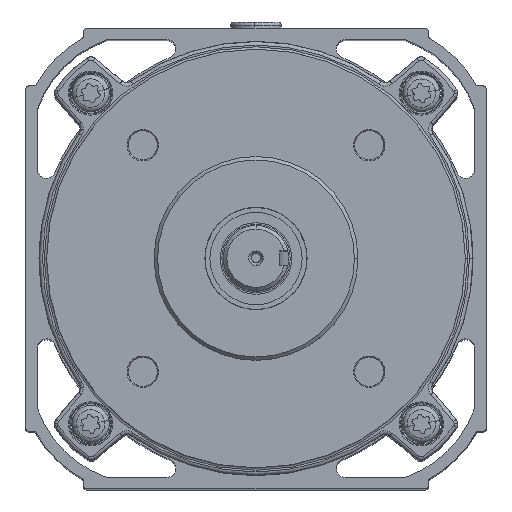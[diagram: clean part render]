
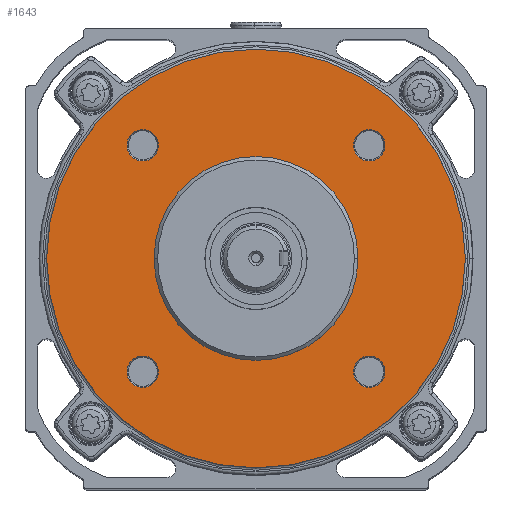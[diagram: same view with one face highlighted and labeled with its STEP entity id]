
A CAD part, top view. The second image highlights one B-rep face of the part: STEP entity #1643.
In plain terms, the highlighted planar face has unit normal (0, 0, 1).
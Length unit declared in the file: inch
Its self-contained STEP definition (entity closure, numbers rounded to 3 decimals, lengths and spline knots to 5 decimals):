
#1515 = ORIENTED_EDGE ( 'NONE', *, *, #12541, .F. ) ;
#1517 = EDGE_LOOP ( 'NONE', ( #1653, #1656 ) ) ;
#1524 = ORIENTED_EDGE ( 'NONE', *, *, #1634, .F. ) ;
#1525 = EDGE_LOOP ( 'NONE', ( #1524, #1515 ) ) ;
#1557 = ORIENTED_EDGE ( 'NONE', *, *, #12545, .F. ) ;
#1567 = EDGE_CURVE ( 'NONE', #12634, #12637, #19087, .T. ) ;
#1586 = EDGE_CURVE ( 'NONE', #12592, #12589, #19166, .T. ) ;
#1634 = EDGE_CURVE ( 'NONE', #12542, #12539, #19262, .T. ) ;
#1639 = EDGE_LOOP ( 'NONE', ( #1640, #1641 ) ) ;
#1640 = ORIENTED_EDGE ( 'NONE', *, *, #1642, .F. ) ;
#1641 = ORIENTED_EDGE ( 'NONE', *, *, #12494, .F. ) ;
#1642 = EDGE_CURVE ( 'NONE', #12495, #12492, #19257, .T. ) ;
#1643 = ADVANCED_FACE ( 'NONE', ( #19252, #19251, #19250, #19249, #19248, #19247 ), #19246, .F. ) ;
#1644 = EDGE_LOOP ( 'NONE', ( #1645, #1557 ) ) ;
#1645 = ORIENTED_EDGE ( 'NONE', *, *, #1646, .F. ) ;
#1646 = EDGE_CURVE ( 'NONE', #12546, #12543, #19239, .T. ) ;
#1652 = ORIENTED_EDGE ( 'NONE', *, *, #12636, .T. ) ;
#1653 = ORIENTED_EDGE ( 'NONE', *, *, #1586, .F. ) ;
#1654 = EDGE_LOOP ( 'NONE', ( #1657, #1660 ) ) ;
#1655 = ORIENTED_EDGE ( 'NONE', *, *, #1567, .T. ) ;
#1656 = ORIENTED_EDGE ( 'NONE', *, *, #12591, .F. ) ;
#1657 = ORIENTED_EDGE ( 'NONE', *, *, #12507, .F. ) ;
#1658 = EDGE_CURVE ( 'NONE', #12509, #12508, #19299, .T. ) ;
#1660 = ORIENTED_EDGE ( 'NONE', *, *, #1658, .F. ) ;
#1661 = EDGE_LOOP ( 'NONE', ( #1652, #1655 ) ) ;
#5833 = DIRECTION ( 'NONE',  ( 0., 0., 1. ) ) ;
#5834 = CARTESIAN_POINT ( 'NONE',  ( 0.97227, 0.97227, 5.912 ) ) ;
#5835 = AXIS2_PLACEMENT_3D ( 'NONE', #5834, #5833, #5900 ) ;
#5836 = CIRCLE ( 'NONE', #5835, 0.135 ) ;
#5837 = CARTESIAN_POINT ( 'NONE',  ( 0.83727, 0.97227, 5.912 ) ) ;
#5899 = CARTESIAN_POINT ( 'NONE',  ( 1.10727, 0.97227, 5.912 ) ) ;
#5900 = DIRECTION ( 'NONE',  ( 1., 0., 0. ) ) ;
#5926 = CARTESIAN_POINT ( 'NONE',  ( 1.79741, 0., 5.912 ) ) ;
#5927 = CARTESIAN_POINT ( 'NONE',  ( -1.79741, 0., 5.912 ) ) ;
#5928 = DIRECTION ( 'NONE',  ( -1., 0., 0. ) ) ;
#5929 = DIRECTION ( 'NONE',  ( 0., 0., -1. ) ) ;
#5930 = CARTESIAN_POINT ( 'NONE',  ( 0., 0., 5.912 ) ) ;
#5931 = AXIS2_PLACEMENT_3D ( 'NONE', #5930, #5929, #5928 ) ;
#5932 = CIRCLE ( 'NONE', #5931, 1.79741 ) ;
#5976 = CARTESIAN_POINT ( 'NONE',  ( 1.10727, -0.97227, 5.912 ) ) ;
#5977 = DIRECTION ( 'NONE',  ( 1., 0., 0. ) ) ;
#5978 = DIRECTION ( 'NONE',  ( 0., 0., 1. ) ) ;
#5979 = CARTESIAN_POINT ( 'NONE',  ( 0.97227, -0.97227, 5.912 ) ) ;
#5980 = AXIS2_PLACEMENT_3D ( 'NONE', #5979, #5978, #5977 ) ;
#5981 = CIRCLE ( 'NONE', #5980, 0.135 ) ;
#5983 = CARTESIAN_POINT ( 'NONE',  ( 0.83727, -0.97227, 5.912 ) ) ;
#5984 = CARTESIAN_POINT ( 'NONE',  ( -0.83727, -0.97227, 5.912 ) ) ;
#5985 = DIRECTION ( 'NONE',  ( 1., 0., 0. ) ) ;
#5986 = DIRECTION ( 'NONE',  ( 0., 0., 1. ) ) ;
#5987 = CARTESIAN_POINT ( 'NONE',  ( -0.97227, -0.97227, 5.912 ) ) ;
#5988 = AXIS2_PLACEMENT_3D ( 'NONE', #5987, #5986, #5985 ) ;
#5989 = CIRCLE ( 'NONE', #5988, 0.135 ) ;
#5990 = CARTESIAN_POINT ( 'NONE',  ( -1.10727, -0.97227, 5.912 ) ) ;
#6078 = CARTESIAN_POINT ( 'NONE',  ( -0.83727, 0.97227, 5.912 ) ) ;
#6079 = DIRECTION ( 'NONE',  ( 1., 0., 0. ) ) ;
#6080 = DIRECTION ( 'NONE',  ( 0., 0., 1. ) ) ;
#6081 = CARTESIAN_POINT ( 'NONE',  ( -0.97227, 0.97227, 5.912 ) ) ;
#6082 = AXIS2_PLACEMENT_3D ( 'NONE', #6081, #6080, #6079 ) ;
#6083 = CIRCLE ( 'NONE', #6082, 0.135 ) ;
#6084 = CARTESIAN_POINT ( 'NONE',  ( -1.10727, 0.97227, 5.912 ) ) ;
#6180 = CARTESIAN_POINT ( 'NONE',  ( -0.875, 0., 5.912 ) ) ;
#6181 = DIRECTION ( 'NONE',  ( -1., 0., 0. ) ) ;
#6182 = DIRECTION ( 'NONE',  ( 0., 0., -1. ) ) ;
#6183 = CARTESIAN_POINT ( 'NONE',  ( 0., 0., 5.912 ) ) ;
#6184 = AXIS2_PLACEMENT_3D ( 'NONE', #6183, #6182, #6181 ) ;
#6185 = CIRCLE ( 'NONE', #6184, 0.875 ) ;
#6186 = CARTESIAN_POINT ( 'NONE',  ( 0.875, 0., 5.912 ) ) ;
#12492 = VERTEX_POINT ( 'NONE', #5837 ) ;
#12494 = EDGE_CURVE ( 'NONE', #12492, #12495, #5836, .T. ) ;
#12495 = VERTEX_POINT ( 'NONE', #5899 ) ;
#12507 = EDGE_CURVE ( 'NONE', #12508, #12509, #5932, .T. ) ;
#12508 = VERTEX_POINT ( 'NONE', #5927 ) ;
#12509 = VERTEX_POINT ( 'NONE', #5926 ) ;
#12539 = VERTEX_POINT ( 'NONE', #5990 ) ;
#12541 = EDGE_CURVE ( 'NONE', #12539, #12542, #5989, .T. ) ;
#12542 = VERTEX_POINT ( 'NONE', #5984 ) ;
#12543 = VERTEX_POINT ( 'NONE', #5983 ) ;
#12545 = EDGE_CURVE ( 'NONE', #12543, #12546, #5981, .T. ) ;
#12546 = VERTEX_POINT ( 'NONE', #5976 ) ;
#12589 = VERTEX_POINT ( 'NONE', #6084 ) ;
#12591 = EDGE_CURVE ( 'NONE', #12589, #12592, #6083, .T. ) ;
#12592 = VERTEX_POINT ( 'NONE', #6078 ) ;
#12634 = VERTEX_POINT ( 'NONE', #6186 ) ;
#12636 = EDGE_CURVE ( 'NONE', #12637, #12634, #6185, .T. ) ;
#12637 = VERTEX_POINT ( 'NONE', #6180 ) ;
#19083 = DIRECTION ( 'NONE',  ( -1., 0., 0. ) ) ;
#19084 = DIRECTION ( 'NONE',  ( 0., 0., -1. ) ) ;
#19085 = CARTESIAN_POINT ( 'NONE',  ( 0., 0., 5.912 ) ) ;
#19086 = AXIS2_PLACEMENT_3D ( 'NONE', #19085, #19084, #19083 ) ;
#19087 = CIRCLE ( 'NONE', #19086, 0.875 ) ;
#19162 = DIRECTION ( 'NONE',  ( 1., 0., 0. ) ) ;
#19163 = DIRECTION ( 'NONE',  ( 0., 0., 1. ) ) ;
#19164 = CARTESIAN_POINT ( 'NONE',  ( -0.97227, 0.97227, 5.912 ) ) ;
#19165 = AXIS2_PLACEMENT_3D ( 'NONE', #19164, #19163, #19162 ) ;
#19166 = CIRCLE ( 'NONE', #19165, 0.135 ) ;
#19236 = DIRECTION ( 'NONE',  ( 1., 0., 0. ) ) ;
#19237 = DIRECTION ( 'NONE',  ( 0., 0., 1. ) ) ;
#19238 = AXIS2_PLACEMENT_3D ( 'NONE', #19244, #19237, #19236 ) ;
#19239 = CIRCLE ( 'NONE', #19238, 0.135 ) ;
#19241 = DIRECTION ( 'NONE',  ( -1., 0., 0. ) ) ;
#19242 = DIRECTION ( 'NONE',  ( 0., 0., -1. ) ) ;
#19243 = AXIS2_PLACEMENT_3D ( 'NONE', #19245, #19242, #19241 ) ;
#19244 = CARTESIAN_POINT ( 'NONE',  ( 0.97227, -0.97227, 5.912 ) ) ;
#19245 = CARTESIAN_POINT ( 'NONE',  ( -0.875, 0., 5.912 ) ) ;
#19246 = PLANE ( 'NONE',  #19243 ) ;
#19247 = FACE_OUTER_BOUND ( 'NONE', #1654, .T. ) ;
#19248 = FACE_BOUND ( 'NONE', #1661, .T. ) ;
#19249 = FACE_BOUND ( 'NONE', #1517, .T. ) ;
#19250 = FACE_BOUND ( 'NONE', #1525, .T. ) ;
#19251 = FACE_BOUND ( 'NONE', #1644, .T. ) ;
#19252 = FACE_BOUND ( 'NONE', #1639, .T. ) ;
#19253 = DIRECTION ( 'NONE',  ( 1., 0., 0. ) ) ;
#19254 = DIRECTION ( 'NONE',  ( 0., 0., 1. ) ) ;
#19255 = CARTESIAN_POINT ( 'NONE',  ( 0.97227, 0.97227, 5.912 ) ) ;
#19256 = AXIS2_PLACEMENT_3D ( 'NONE', #19255, #19254, #19253 ) ;
#19257 = CIRCLE ( 'NONE', #19256, 0.135 ) ;
#19258 = DIRECTION ( 'NONE',  ( 1., 0., 0. ) ) ;
#19259 = DIRECTION ( 'NONE',  ( 0., 0., 1. ) ) ;
#19260 = CARTESIAN_POINT ( 'NONE',  ( -0.97227, -0.97227, 5.912 ) ) ;
#19261 = AXIS2_PLACEMENT_3D ( 'NONE', #19260, #19259, #19258 ) ;
#19262 = CIRCLE ( 'NONE', #19261, 0.135 ) ;
#19295 = DIRECTION ( 'NONE',  ( -1., 0., 0. ) ) ;
#19296 = DIRECTION ( 'NONE',  ( 0., 0., -1. ) ) ;
#19297 = CARTESIAN_POINT ( 'NONE',  ( 0., 0., 5.912 ) ) ;
#19298 = AXIS2_PLACEMENT_3D ( 'NONE', #19297, #19296, #19295 ) ;
#19299 = CIRCLE ( 'NONE', #19298, 1.79741 ) ;
